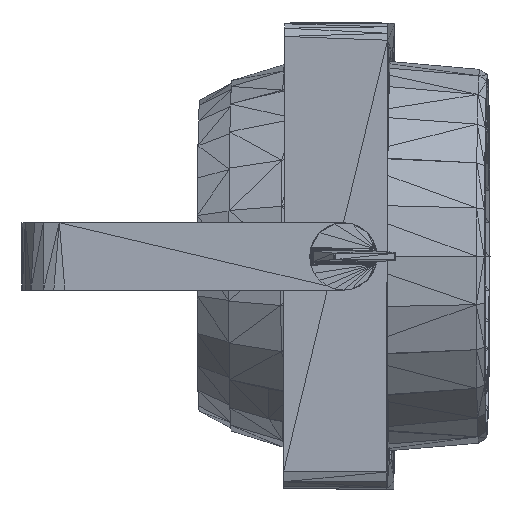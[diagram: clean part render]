
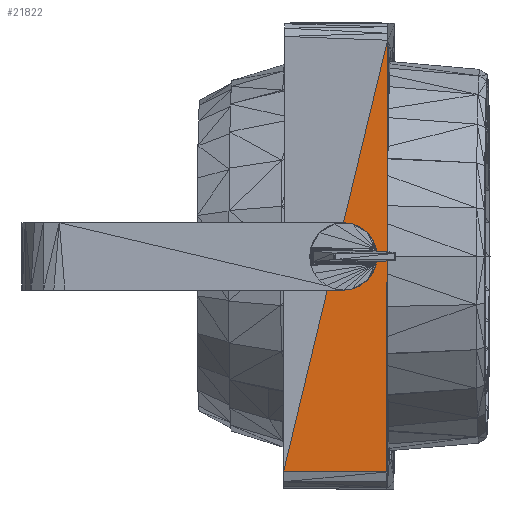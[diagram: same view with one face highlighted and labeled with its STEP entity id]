
A CAD part, left-side view. The second image highlights one B-rep face of the part: STEP entity #21822.
In plain terms, the highlighted planar face has unit normal (-1, 0.016, 0) as drawn and (-1, 0, 0) by its records, which use the part's own axes.
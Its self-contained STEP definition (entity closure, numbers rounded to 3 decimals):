
#1738=FACE_OUTER_BOUND('',#3511,.T.);
#3511=EDGE_LOOP('',(#18058,#18059,#18060,#18061,#18062,#18063,#18064,#18065,
#18066,#18067,#18068,#18069,#18070,#18071,#18072));
#5804=LINE('',#34580,#8558);
#5808=LINE('',#34588,#8562);
#5810=LINE('',#34592,#8564);
#5813=LINE('',#34598,#8567);
#5816=LINE('',#34604,#8570);
#5818=LINE('',#34608,#8572);
#5821=LINE('',#34614,#8575);
#5823=LINE('',#34618,#8577);
#5826=LINE('',#34624,#8580);
#5828=LINE('',#34628,#8582);
#5838=LINE('',#34648,#8592);
#5867=LINE('',#34706,#8621);
#5870=LINE('',#34711,#8624);
#6248=LINE('',#35456,#9002);
#6250=LINE('',#35459,#9004);
#8558=VECTOR('',#28903,10.);
#8562=VECTOR('',#28909,10.);
#8564=VECTOR('',#28913,10.);
#8567=VECTOR('',#28918,10.);
#8570=VECTOR('',#28923,10.);
#8572=VECTOR('',#28927,10.);
#8575=VECTOR('',#28932,10.);
#8577=VECTOR('',#28936,10.);
#8580=VECTOR('',#28941,10.);
#8582=VECTOR('',#28945,10.);
#8592=VECTOR('',#28965,10.);
#8621=VECTOR('',#29026,10.);
#8624=VECTOR('',#29029,10.);
#9002=VECTOR('',#29867,10.);
#9004=VECTOR('',#29871,10.);
#9873=VERTEX_POINT('',#34578);
#9874=VERTEX_POINT('',#34579);
#9877=VERTEX_POINT('',#34587);
#9878=VERTEX_POINT('',#34591);
#9880=VERTEX_POINT('',#34597);
#9882=VERTEX_POINT('',#34603);
#9883=VERTEX_POINT('',#34607);
#9885=VERTEX_POINT('',#34613);
#9886=VERTEX_POINT('',#34617);
#9888=VERTEX_POINT('',#34623);
#9889=VERTEX_POINT('',#34627);
#9894=VERTEX_POINT('',#34647);
#9907=VERTEX_POINT('',#34705);
#9909=VERTEX_POINT('',#34709);
#10046=VERTEX_POINT('',#35455);
#12277=EDGE_CURVE('',#9873,#9874,#5804,.T.);
#12281=EDGE_CURVE('',#9877,#9873,#5808,.T.);
#12283=EDGE_CURVE('',#9878,#9877,#5810,.T.);
#12286=EDGE_CURVE('',#9880,#9878,#5813,.T.);
#12289=EDGE_CURVE('',#9882,#9880,#5816,.T.);
#12291=EDGE_CURVE('',#9883,#9882,#5818,.T.);
#12294=EDGE_CURVE('',#9885,#9883,#5821,.T.);
#12296=EDGE_CURVE('',#9886,#9885,#5823,.T.);
#12299=EDGE_CURVE('',#9888,#9886,#5826,.T.);
#12301=EDGE_CURVE('',#9889,#9888,#5828,.T.);
#12311=EDGE_CURVE('',#9874,#9894,#5838,.T.);
#12340=EDGE_CURVE('',#9889,#9907,#5867,.T.);
#12343=EDGE_CURVE('',#9909,#9894,#5870,.T.);
#12721=EDGE_CURVE('',#10046,#9909,#6248,.T.);
#12723=EDGE_CURVE('',#10046,#9907,#6250,.T.);
#18058=ORIENTED_EDGE('',*,*,#12311,.T.);
#18059=ORIENTED_EDGE('',*,*,#12343,.F.);
#18060=ORIENTED_EDGE('',*,*,#12721,.F.);
#18061=ORIENTED_EDGE('',*,*,#12723,.T.);
#18062=ORIENTED_EDGE('',*,*,#12340,.F.);
#18063=ORIENTED_EDGE('',*,*,#12301,.T.);
#18064=ORIENTED_EDGE('',*,*,#12299,.T.);
#18065=ORIENTED_EDGE('',*,*,#12296,.T.);
#18066=ORIENTED_EDGE('',*,*,#12294,.T.);
#18067=ORIENTED_EDGE('',*,*,#12291,.T.);
#18068=ORIENTED_EDGE('',*,*,#12289,.T.);
#18069=ORIENTED_EDGE('',*,*,#12286,.T.);
#18070=ORIENTED_EDGE('',*,*,#12283,.T.);
#18071=ORIENTED_EDGE('',*,*,#12281,.T.);
#18072=ORIENTED_EDGE('',*,*,#12277,.T.);
#20049=PLANE('',#23739);
#21822=ADVANCED_FACE('',(#1738),#20049,.T.);
#23739=AXIS2_PLACEMENT_3D('',#35458,#29869,#29870);
#28903=DIRECTION('',(0.,-1.,0.));
#28909=DIRECTION('',(0.,-0.924,0.383));
#28913=DIRECTION('',(0.,-0.866,0.5));
#28918=DIRECTION('',(0.,-0.5,0.866));
#28923=DIRECTION('',(0.,-0.5,0.866));
#28927=DIRECTION('',(0.,0.,1.));
#28932=DIRECTION('',(0.,0.,1.));
#28936=DIRECTION('',(0.,0.5,0.866));
#28941=DIRECTION('',(0.,0.5,0.866));
#28945=DIRECTION('',(0.,0.924,0.383));
#28965=DIRECTION('',(0.,-0.966,-0.259));
#29026=DIRECTION('',(0.,0.232,-0.973));
#29029=DIRECTION('',(0.,0.232,-0.973));
#29867=DIRECTION('',(0.,-1.,0.));
#29869=DIRECTION('center_axis',(-1.,0.,0.));
#29870=DIRECTION('ref_axis',(0.,0.,1.));
#29871=DIRECTION('',(0.,0.,-1.));
#34578=CARTESIAN_POINT('',(-189.747,-261.62,24.868));
#34579=CARTESIAN_POINT('',(-189.747,-262.49,24.868));
#34580=CARTESIAN_POINT('',(-189.747,-244.555,24.868));
#34587=CARTESIAN_POINT('',(-189.747,-245.183,18.06));
#34588=CARTESIAN_POINT('',(-189.747,-270.988,28.749));
#34591=CARTESIAN_POINT('',(-189.747,-244.43,17.625));
#34592=CARTESIAN_POINT('',(-189.747,-275.323,35.461));
#34597=CARTESIAN_POINT('',(-189.747,-243.995,16.872));
#34598=CARTESIAN_POINT('',(-189.747,-275.692,71.773));
#34603=CARTESIAN_POINT('',(-189.747,-237.978,6.451));
#34604=CARTESIAN_POINT('',(-189.747,-272.467,66.187));
#34607=CARTESIAN_POINT('',(-189.747,-237.978,5.581));
#34608=CARTESIAN_POINT('',(-189.747,-237.978,91.114));
#34613=CARTESIAN_POINT('',(-189.747,-237.978,-6.451));
#34614=CARTESIAN_POINT('',(-189.747,-237.978,84.663));
#34617=CARTESIAN_POINT('',(-189.747,-238.414,-7.205));
#34618=CARTESIAN_POINT('',(-189.747,-196.353,65.646));
#34623=CARTESIAN_POINT('',(-189.747,-244.43,-17.625));
#34624=CARTESIAN_POINT('',(-189.747,-199.579,60.059));
#34627=CARTESIAN_POINT('',(-189.747,-257.096,-22.872));
#34628=CARTESIAN_POINT('',(-189.747,-208.885,-2.902));
#34647=CARTESIAN_POINT('',(-189.747,-268.13,23.357));
#34648=CARTESIAN_POINT('',(-189.747,-230.108,33.545));
#34705=CARTESIAN_POINT('',(-189.747,-220.604,-175.776));
#34706=CARTESIAN_POINT('',(-189.747,-304.506,175.776));
#34709=CARTESIAN_POINT('',(-189.747,-304.506,175.776));
#34711=CARTESIAN_POINT('',(-189.747,-304.506,175.776));
#35455=CARTESIAN_POINT('',(-189.747,-220.604,175.776));
#35456=CARTESIAN_POINT('',(-189.747,-220.604,175.776));
#35458=CARTESIAN_POINT('Origin',(-189.747,-220.604,175.776));
#35459=CARTESIAN_POINT('',(-189.747,-220.604,175.776));
